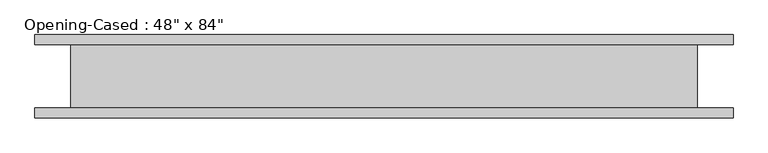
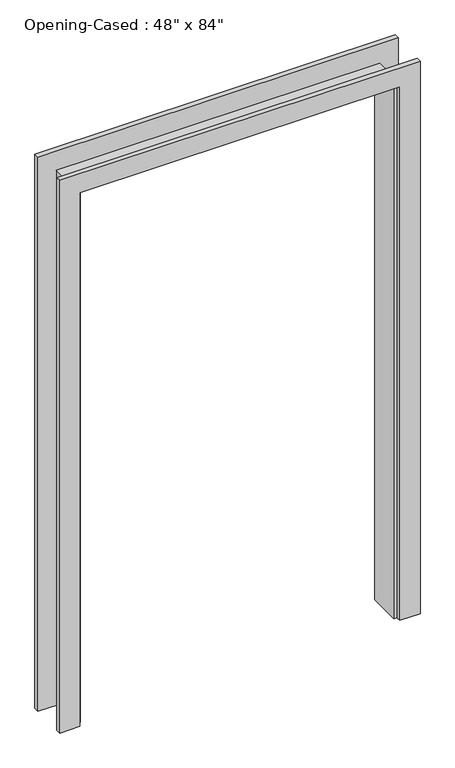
"""IFC4 building model written with IfcOpenShell, lengths in millimetres: proxy geometry."""

from ifc_helpers import new_model, si_unit, frame, origin, place, context, project, spatial, polyline, outline, extrude, faceted_brep, source, transform, mapped, element, save


def proxy_52898018(model_context):
    return source(origin(), model_context, "Body", "SolidModel", [
        extrude(outline(polyline([(0.0, -611.4386567), (2127.25, -611.4386567), (2127.25, 595.0613433), (0.0, 595.0613433), (0.0, 671.2613433), (2203.45, 671.2613433), (2203.45, -687.6386567), (0.0, -687.6386567), (0.0, -611.4386567)])), frame((0.0, -80.9625, 0.0), z_axis=(0.0, 1.0, 0.0), x_axis=(0.0, 0.0, 1.0)), (0.0, 0.0, 1.0), 19.05),
        extrude(outline(polyline([(0.0, 671.2613433), (2209.8, 671.2613433), (2209.8, -687.6386567), (0.0, -687.6386567), (0.0, -611.4386567), (2127.25, -611.4386567), (2127.25, 595.0613433), (0.0, 595.0613433), (0.0, 671.2613433)])), frame((0.0, 61.9125, 0.0), z_axis=(0.0, 1.0, 0.0), x_axis=(0.0, 0.0, 1.0)), (0.0, 0.0, 1.0), 19.05),
        faceted_brep([(582.3613433, 61.9125, 0.0), (601.4113433, 61.9125, 0.0), (601.4113433, -61.9125, 0.0), (582.3613433, -61.9125, 0.0), (582.3613433, 61.9125, 2114.55), (601.4113433, 61.9125, 2133.6), (601.4113433, -61.9125, 2133.6), (582.3613433, -61.9125, 2114.55), (-598.7386567, 61.9125, 2114.55), (-617.7886567, 61.9125, 2133.6), (-617.7886567, -61.9125, 2133.6), (-598.7386567, -61.9125, 2114.55), (-598.7386567, 61.9125, 0.0), (-598.7386567, -61.9125, 0.0), (-617.7886567, -61.9125, 0.0), (-617.7886567, 61.9125, 0.0)], [[[0, 1, 2, 3]], [[1, 0, 4, 5]], [[2, 1, 5, 6]], [[3, 2, 6, 7]], [[0, 3, 7, 4]], [[5, 4, 8, 9]], [[6, 5, 9, 10]], [[7, 6, 10, 11]], [[4, 7, 11, 8]], [[12, 13, 14, 15]], [[9, 8, 12, 15]], [[10, 9, 15, 14]], [[11, 10, 14, 13]], [[8, 11, 13, 12]]]),
    ])


if __name__ == "__main__":
    model = new_model("IFC4")
    model_context = context("Model", 3, world=origin())
    ifc_project = project(units=[si_unit("LENGTHUNIT", "METRE", prefix="MILLI")], contexts=[model_context])
    site = spatial("IfcSite", under=ifc_project)
    building = spatial("IfcBuilding", under=site)
    placement = place(None, origin())
    proxy_shape = proxy_52898018(model_context)
    element("IfcBuildingElementProxy", 1, Name="Opening-Cased : 48\" x 84\"", ObjectType="Opening-Cased : 48\" x 84\"", at=placement, inside=building, context=model_context, shape_type="MappedRepresentation", body=[
        mapped(proxy_shape, transform((0.0, 0.0, 0.0), x_axis=(1.0, 0.0, 0.0), y_axis=(0.0, 1.0, 0.0), z_axis=(0.0, 0.0, 1.0))),
    ])
    save(model, "model.ifc")
